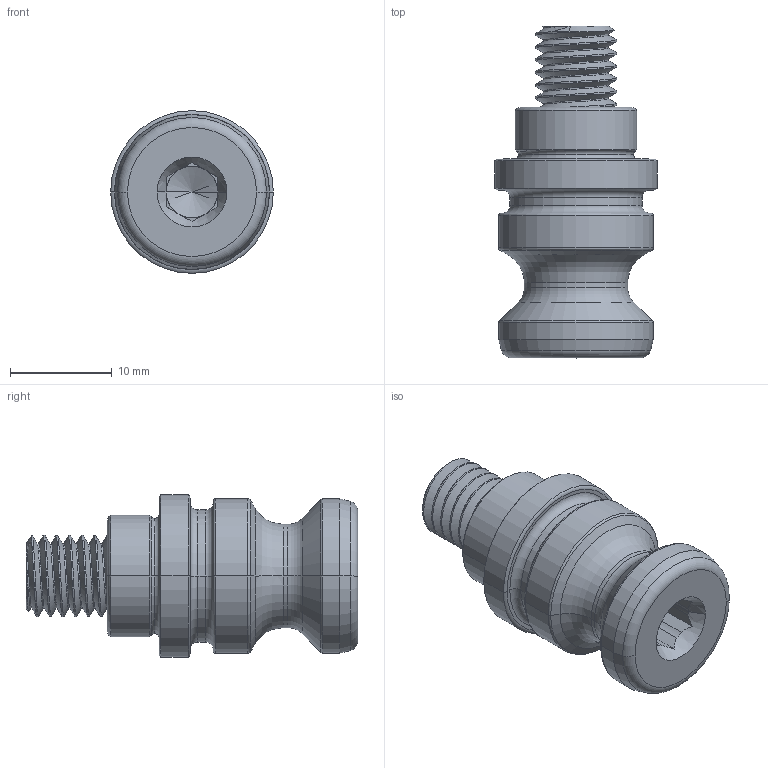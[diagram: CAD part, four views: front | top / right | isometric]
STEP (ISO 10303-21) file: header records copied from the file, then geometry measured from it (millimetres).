
FILE_DESCRIPTION (( 'STEP AP214' ), '1' );
FILE_NAME ('R52.STEP', '2021-04-13T02:02:11', ( '' ), ( '' ), 'SwSTEP 2.0', 'SolidWorks 2018', '' );
FILE_SCHEMA (( 'AUTOMOTIVE_DESIGN' ));
Length unit declared in the file: millimetre
Products named in the file (5): R52; PS16F-1_PS16F.STEP; PS16F.STEP; HW.39858.CPSS_M8X1.25X20MM.STEP; R52-P12D05125.STEP
Assembly tree (4 placements, depth 4):
  R52
    R52-P12D05125.STEP
      PS16F.STEP
        PS16F-1_PS16F.STEP
        HW.39858.CPSS_M8X1.25X20MM.STEP
Bounding box: 16 x 32.64 x 16 mm (x, y, z)
Volume: 3654.1 mm3; surface area: 2750.8 mm2
Topology: 2 solids, 2 shells, 143 faces, 342 edges, 201 vertices
Faces by surface type: cylinder 46, plane 36, cone 32, torus 26, bspline 3
Entity records: 7365 total; most frequent: CARTESIAN_POINT 4071, ORIENTED_EDGE 668, DIRECTION 664, EDGE_CURVE 334, AXIS2_PLACEMENT_3D 273, VERTEX_POINT 201, EDGE_LOOP 149, ADVANCED_FACE 143
